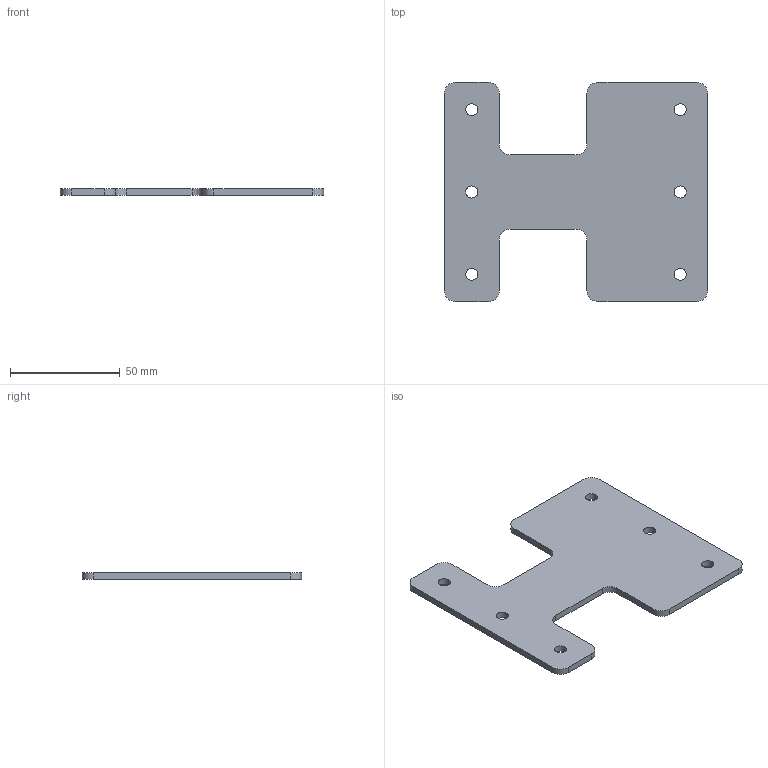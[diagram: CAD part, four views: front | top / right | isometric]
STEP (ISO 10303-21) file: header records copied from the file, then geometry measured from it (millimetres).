
FILE_DESCRIPTION(('CATIA V5 STEP Exchange'),'2;1');
FILE_NAME('D:\姚明阳\AGZ015\AGZ015.05_V1.stp','2022-02-07T06:30:58+00:00',('none'),('none'),'CATIA Version 5 Release 21 GA (IN-10)','CATIA V5 STEP AP214','none');
FILE_SCHEMA(('AUTOMOTIVE_DESIGN { 1 0 10303 214 1 1 1 1 }'));
Length unit declared in the file: millimetre
Products named in the file (1): AGZ015.05_V1
Bounding box: 120 x 100 x 3 mm (x, y, z)
Volume: 27588 mm3; surface area: 20341.7 mm2
Topology: 1 solids, 1 shells, 38 faces, 108 edges, 72 vertices
Faces by surface type: cylinder 24, plane 14
Entity records: 1208 total; most frequent: ORIENTED_EDGE 216, CARTESIAN_POINT 209, DIRECTION 164, EDGE_CURVE 108, AXIS2_PLACEMENT_3D 77, VERTEX_POINT 72, VECTOR 60, LINE 60
